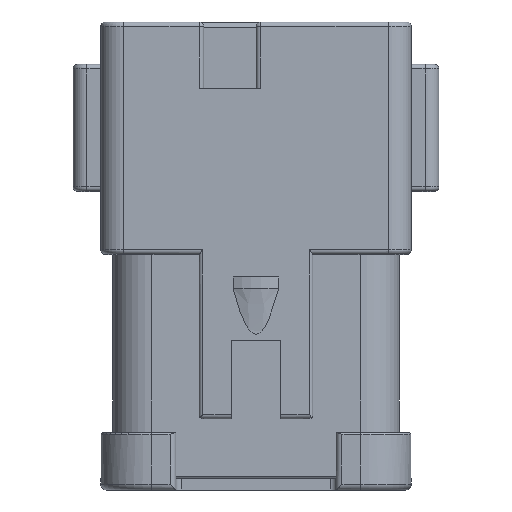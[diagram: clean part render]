
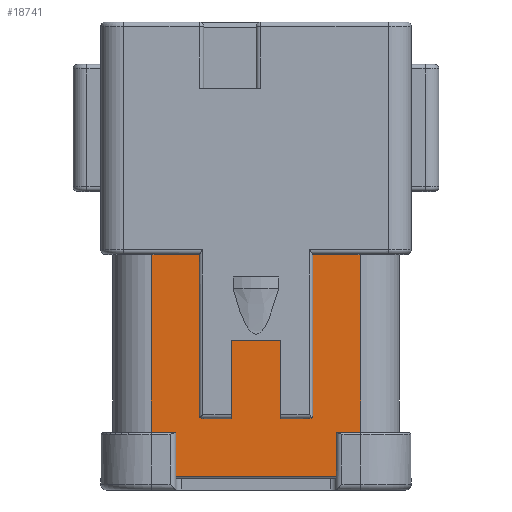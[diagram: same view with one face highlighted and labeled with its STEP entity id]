
A CAD part, front view. The second image highlights one B-rep face of the part: STEP entity #18741.
In plain terms, the highlighted planar face has unit normal (0, -1, 0).
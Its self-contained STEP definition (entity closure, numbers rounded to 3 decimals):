
#185=DIRECTION('',(1.,0.,0.));
#186=VECTOR('',#185,6.604);
#187=CARTESIAN_POINT('',(-11.621,-9.093,-25.781));
#188=LINE('',#187,#186);
#221=DIRECTION('',(1.,0.,0.));
#222=VECTOR('',#221,6.604);
#223=CARTESIAN_POINT('',(5.017,-9.093,-25.781));
#224=LINE('',#223,#222);
#5578=DIRECTION('',(0.,0.,1.));
#5579=VECTOR('',#5578,18.034);
#5580=CARTESIAN_POINT('',(-2.731,-9.093,-44.018));
#5581=LINE('',#5580,#5579);
#5647=DIRECTION('',(0.,0.,1.));
#5648=VECTOR('',#5647,18.034);
#5649=CARTESIAN_POINT('',(2.731,-9.093,-44.018));
#5650=LINE('',#5649,#5648);
#5744=DIRECTION('',(-1.,0.,0.));
#5745=VECTOR('',#5744,23.241);
#5746=CARTESIAN_POINT('',(11.621,-9.093,-50.368));
#5747=LINE('',#5746,#5745);
#5748=DIRECTION('',(0.,0.,-1.));
#5749=VECTOR('',#5748,24.587);
#5750=CARTESIAN_POINT('',(-11.621,-9.093,-25.781));
#5751=LINE('',#5750,#5749);
#5752=DIRECTION('',(0.,0.,-1.));
#5753=VECTOR('',#5752,18.237);
#5754=CARTESIAN_POINT('',(-5.017,-9.093,-25.781));
#5755=LINE('',#5754,#5753);
#5756=DIRECTION('',(1.,0.,0.));
#5757=VECTOR('',#5756,2.286);
#5758=CARTESIAN_POINT('',(-5.017,-9.093,-44.018));
#5759=LINE('',#5758,#5757);
#5760=DIRECTION('',(-1.,0.,0.));
#5761=VECTOR('',#5760,5.461);
#5762=CARTESIAN_POINT('',(2.731,-9.093,-25.984));
#5763=LINE('',#5762,#5761);
#5764=DIRECTION('',(1.,0.,0.));
#5765=VECTOR('',#5764,2.286);
#5766=CARTESIAN_POINT('',(2.731,-9.093,-44.018));
#5767=LINE('',#5766,#5765);
#5768=DIRECTION('',(0.,0.,-1.));
#5769=VECTOR('',#5768,18.237);
#5770=CARTESIAN_POINT('',(5.017,-9.093,-25.781));
#5771=LINE('',#5770,#5769);
#6588=DIRECTION('',(0.,0.,-1.));
#6589=VECTOR('',#6588,24.587);
#6590=CARTESIAN_POINT('',(11.621,-9.093,-25.781));
#6591=LINE('',#6590,#6589);
#9946=CARTESIAN_POINT('',(-11.621,-9.093,-25.781));
#9947=VERTEX_POINT('',#9946);
#9948=CARTESIAN_POINT('',(11.621,-9.093,-25.781));
#9950=VERTEX_POINT('',#9948);
#10002=CARTESIAN_POINT('',(5.017,-9.093,-25.781));
#10004=VERTEX_POINT('',#10002);
#10007=CARTESIAN_POINT('',(-5.017,-9.093,-25.781));
#10009=VERTEX_POINT('',#10007);
#10010=CARTESIAN_POINT('',(-5.017,-9.093,-44.018));
#10011=CARTESIAN_POINT('',(-2.731,-9.093,-44.018));
#10012=VERTEX_POINT('',#10010);
#10013=VERTEX_POINT('',#10011);
#10014=CARTESIAN_POINT('',(2.731,-9.093,-44.018));
#10015=CARTESIAN_POINT('',(5.017,-9.093,-44.018));
#10016=VERTEX_POINT('',#10014);
#10017=VERTEX_POINT('',#10015);
#10101=CARTESIAN_POINT('',(11.621,-9.093,-50.368));
#10103=VERTEX_POINT('',#10101);
#10114=CARTESIAN_POINT('',(-11.621,-9.093,-50.368));
#10115=VERTEX_POINT('',#10114);
#11046=CARTESIAN_POINT('',(-2.731,-9.093,-25.984));
#11048=VERTEX_POINT('',#11046);
#11052=CARTESIAN_POINT('',(2.731,-9.093,-25.984));
#11053=VERTEX_POINT('',#11052);
#18718=CARTESIAN_POINT('',(-11.621,-9.093,-25.781));
#18719=DIRECTION('',(0.,-1.,0.));
#18720=DIRECTION('',(1.,0.,0.));
#18721=AXIS2_PLACEMENT_3D('',#18718,#18719,#18720);
#18722=PLANE('',#18721);
#18724=ORIENTED_EDGE('',*,*,#18723,.T.);
#18726=ORIENTED_EDGE('',*,*,#18725,.F.);
#18727=ORIENTED_EDGE('',*,*,#12157,.T.);
#18729=ORIENTED_EDGE('',*,*,#18728,.T.);
#18730=ORIENTED_EDGE('',*,*,#18710,.T.);
#18731=ORIENTED_EDGE('',*,*,#18537,.T.);
#18732=ORIENTED_EDGE('',*,*,#18564,.F.);
#18733=ORIENTED_EDGE('',*,*,#18639,.F.);
#18734=ORIENTED_EDGE('',*,*,#18697,.T.);
#18735=ORIENTED_EDGE('',*,*,#18684,.F.);
#18736=ORIENTED_EDGE('',*,*,#12173,.T.);
#18738=ORIENTED_EDGE('',*,*,#18737,.T.);
#18739=EDGE_LOOP('',(#18724,#18726,#18727,#18729,#18730,#18731,#18732,#18733,
#18734,#18735,#18736,#18738));
#18740=FACE_OUTER_BOUND('',#18739,.F.);
#18741=ADVANCED_FACE('',(#18740),#18722,.T.);
#12157=EDGE_CURVE('',#9947,#10009,#188,.T.);
#12173=EDGE_CURVE('',#10004,#9950,#224,.T.);
#18537=EDGE_CURVE('',#10013,#11048,#5581,.T.);
#18564=EDGE_CURVE('',#11053,#11048,#5763,.T.);
#18639=EDGE_CURVE('',#10016,#11053,#5650,.T.);
#18684=EDGE_CURVE('',#10004,#10017,#5771,.T.);
#18697=EDGE_CURVE('',#10016,#10017,#5767,.T.);
#18710=EDGE_CURVE('',#10012,#10013,#5759,.T.);
#18723=EDGE_CURVE('',#10103,#10115,#5747,.T.);
#18725=EDGE_CURVE('',#9947,#10115,#5751,.T.);
#18728=EDGE_CURVE('',#10009,#10012,#5755,.T.);
#18737=EDGE_CURVE('',#9950,#10103,#6591,.T.);
